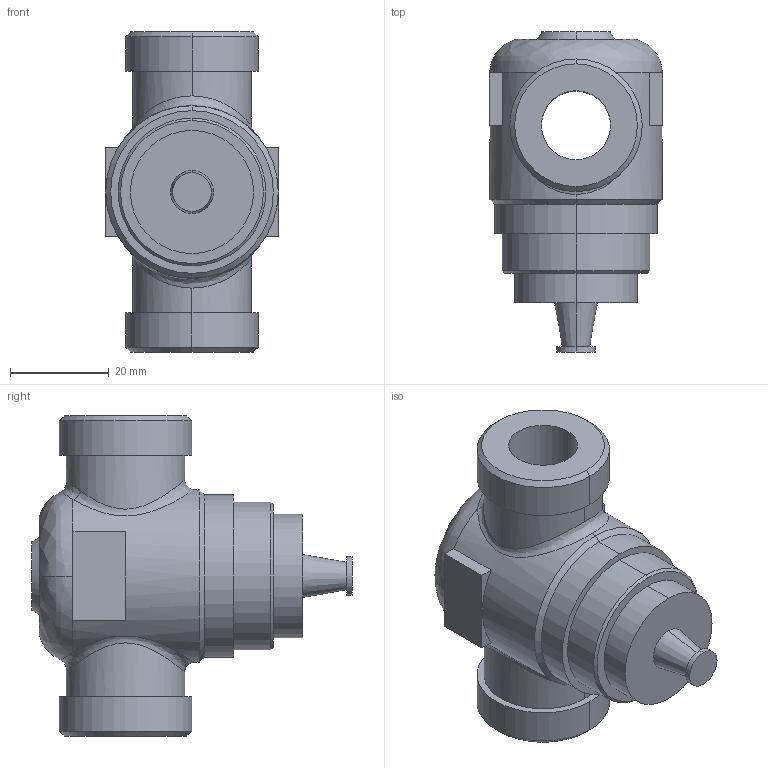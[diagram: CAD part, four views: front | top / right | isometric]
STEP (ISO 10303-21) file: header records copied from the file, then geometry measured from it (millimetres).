
FILE_DESCRIPTION((''),'2;1');
FILE_NAME('000431.dwg.stp','2006-10-04T11:29:47',(''),(''),'Mechanical Desktop 2006','Mechanical Desktop 2006',', , ');
FILE_SCHEMA(('AUTOMOTIVE_DESIGN { 1 2 10303 214 0 1 1 1 }'));
Length unit declared in the file: millimetre
Products named in the file (1): Product
Bounding box: 35.28 x 65 x 65 mm (x, y, z)
Volume: 52366.3 mm3; surface area: 15582.3 mm2
Topology: 5 solids, 5 shells, 63 faces, 132 edges, 82 vertices
Faces by surface type: plane 23, cylinder 18, cone 12, bspline 10
Entity records: 2612 total; most frequent: CARTESIAN_POINT 1212, DIRECTION 292, ORIENTED_EDGE 264, EDGE_CURVE 132, AXIS2_PLACEMENT_3D 120, VERTEX_POINT 82, EDGE_LOOP 68, CIRCLE 66
